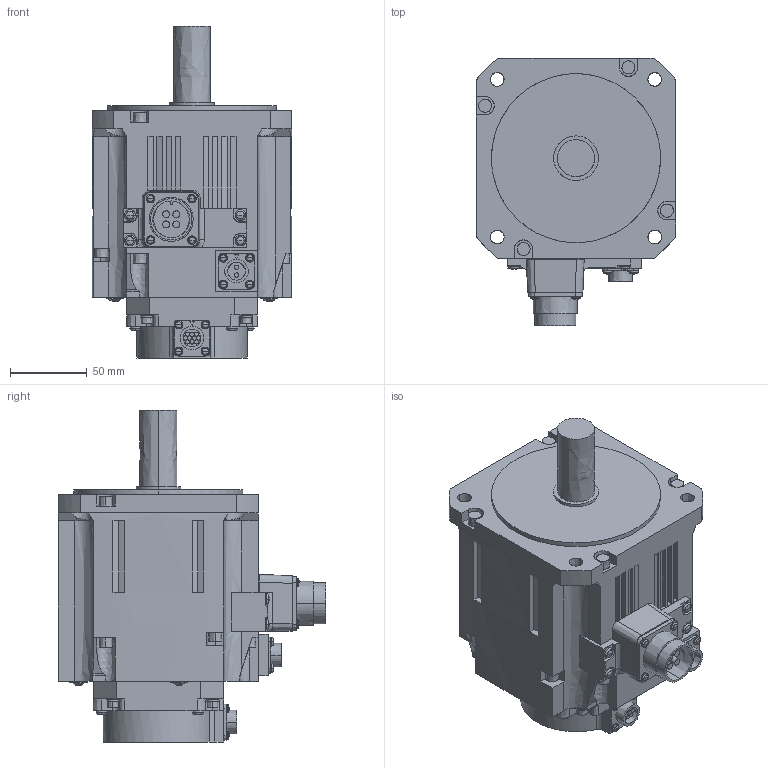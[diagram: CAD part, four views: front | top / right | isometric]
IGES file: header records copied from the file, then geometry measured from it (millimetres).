
Start section:  PTC IGES file: hk-st102wb_.igs
Global section: file name: hk-st102wb_.igs; native system: Creo Parametric by PTC Inc.; preprocessor: 2016380; author: XE90682; organization: Unknown; date: 20190117.165626; units: millimetre
Bounding box: 130 x 173.8 x 216 mm (x, y, z)
Volume: 2119212.4 mm3; surface area: 131336.8 mm2
Topology: 1 solids, 1 shells, 624 faces, 1534 edges, 968 vertices
Faces by surface type: bspline 624
